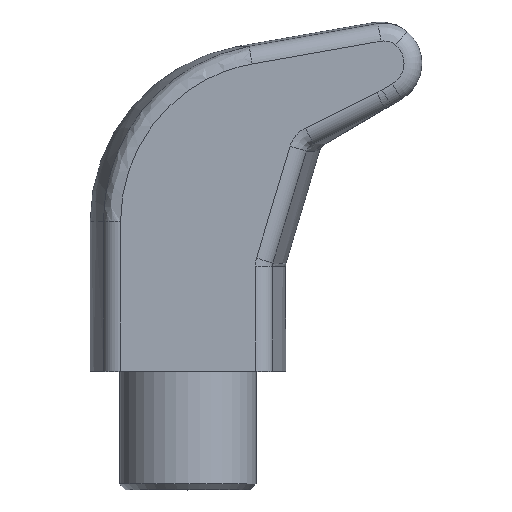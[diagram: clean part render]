
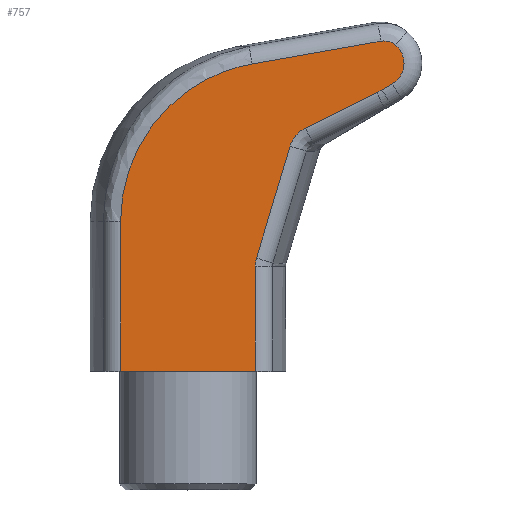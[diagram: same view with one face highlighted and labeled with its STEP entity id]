
A CAD part, top view. The second image highlights one B-rep face of the part: STEP entity #757.
In plain terms, the highlighted planar face has unit normal (0, 0, 1).
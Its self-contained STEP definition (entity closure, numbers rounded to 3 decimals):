
#52=B_SPLINE_CURVE_WITH_KNOTS('',3,(#1489,#1490,#1491,#1492),
 .UNSPECIFIED.,.F.,.F.,(4,4),(0.,0.131),.UNSPECIFIED.);
#53=B_SPLINE_CURVE_WITH_KNOTS('',3,(#1529,#1530,#1531,#1532,#1533,#1534),
 .UNSPECIFIED.,.F.,.F.,(4,1,1,4),(-1.882,-1.075,-0.538,
0.),.UNSPECIFIED.);
#55=B_SPLINE_CURVE_WITH_KNOTS('',3,(#1573,#1574,#1575,#1576),
 .UNSPECIFIED.,.F.,.F.,(4,4),(0.,0.07),.UNSPECIFIED.);
#57=B_SPLINE_CURVE_WITH_KNOTS('',3,(#1608,#1609,#1610,#1611),
 .UNSPECIFIED.,.F.,.F.,(4,4),(0.,0.207),.UNSPECIFIED.);
#59=B_SPLINE_CURVE_WITH_KNOTS('',3,(#1642,#1643,#1644,#1645),
 .UNSPECIFIED.,.F.,.F.,(4,4),(0.,0.052),.UNSPECIFIED.);
#100=LINE('',#1448,#127);
#103=LINE('',#1496,#130);
#104=LINE('',#1542,#131);
#105=LINE('',#1546,#132);
#106=LINE('',#1550,#133);
#107=LINE('',#1580,#134);
#108=LINE('',#1616,#135);
#127=VECTOR('',#927,11.371);
#130=VECTOR('',#952,11.05);
#131=VECTOR('',#957,12.647);
#132=VECTOR('',#962,1.001);
#133=VECTOR('',#967,8.86);
#134=VECTOR('',#974,9.869);
#135=VECTOR('',#981,6.717);
#157=PLANE('',#827);
#210=FACE_OUTER_BOUND('',#263,.T.);
#263=EDGE_LOOP('',(#694,#695,#696,#697,#698,#699,#700,#701,#702,#703,#704,
#705,#706));
#295=CIRCLE('',#807,2.);
#356=VERTEX_POINT('',#1445);
#357=VERTEX_POINT('',#1447);
#360=VERTEX_POINT('',#1458);
#361=VERTEX_POINT('',#1460);
#362=VERTEX_POINT('',#1487);
#363=VERTEX_POINT('',#1494);
#364=VERTEX_POINT('',#1527);
#365=VERTEX_POINT('',#1544);
#366=VERTEX_POINT('',#1548);
#367=VERTEX_POINT('',#1571);
#368=VERTEX_POINT('',#1578);
#370=VERTEX_POINT('',#1606);
#372=VERTEX_POINT('',#1614);
#445=EDGE_CURVE('',#357,#356,#100,.T.);
#453=EDGE_CURVE('',#361,#360,#295,.T.);
#456=EDGE_CURVE('',#362,#361,#52,.T.);
#458=EDGE_CURVE('',#363,#362,#103,.T.);
#460=EDGE_CURVE('',#364,#363,#53,.T.);
#462=EDGE_CURVE('',#357,#364,#104,.T.);
#464=EDGE_CURVE('',#360,#365,#105,.T.);
#466=EDGE_CURVE('',#366,#356,#106,.T.);
#468=EDGE_CURVE('',#367,#366,#55,.T.);
#470=EDGE_CURVE('',#368,#367,#107,.T.);
#473=EDGE_CURVE('',#370,#368,#57,.T.);
#475=EDGE_CURVE('',#372,#370,#108,.T.);
#478=EDGE_CURVE('',#365,#372,#59,.T.);
#694=ORIENTED_EDGE('',*,*,#462,.F.);
#695=ORIENTED_EDGE('',*,*,#445,.T.);
#696=ORIENTED_EDGE('',*,*,#466,.F.);
#697=ORIENTED_EDGE('',*,*,#468,.F.);
#698=ORIENTED_EDGE('',*,*,#470,.F.);
#699=ORIENTED_EDGE('',*,*,#473,.F.);
#700=ORIENTED_EDGE('',*,*,#475,.F.);
#701=ORIENTED_EDGE('',*,*,#478,.F.);
#702=ORIENTED_EDGE('',*,*,#464,.F.);
#703=ORIENTED_EDGE('',*,*,#453,.F.);
#704=ORIENTED_EDGE('',*,*,#456,.F.);
#705=ORIENTED_EDGE('',*,*,#458,.F.);
#706=ORIENTED_EDGE('',*,*,#460,.F.);
#757=ADVANCED_FACE('',(#210),#157,.T.);
#807=AXIS2_PLACEMENT_3D('',#1462,#944,#945);
#827=AXIS2_PLACEMENT_3D('',#1792,#991,#992);
#927=DIRECTION('',(1.,0.,0.));
#944=DIRECTION('center_axis',(0.,0.,-1.));
#945=DIRECTION('ref_axis',(0.979,0.203,0.));
#952=DIRECTION('',(0.985,0.174,0.));
#957=DIRECTION('',(0.,1.,0.));
#962=DIRECTION('',(-0.862,-0.507,0.));
#967=DIRECTION('',(0.,-1.,0.));
#974=DIRECTION('',(-0.287,-0.958,0.));
#981=DIRECTION('',(-0.895,-0.445,0.));
#991=DIRECTION('center_axis',(0.,0.,1.));
#992=DIRECTION('ref_axis',(1.,0.,0.));
#1445=CARTESIAN_POINT('',(5.686,0.,8.25));
#1447=CARTESIAN_POINT('',(-5.686,0.,8.25));
#1448=CARTESIAN_POINT('',(-8.25,0.,8.25));
#1458=CARTESIAN_POINT('',(17.264,24.276,8.25));
#1460=CARTESIAN_POINT('',(17.528,27.539,8.25));
#1462=CARTESIAN_POINT('Origin',(16.25,26.,8.25));
#1487=CARTESIAN_POINT('',(16.305,27.863,8.25));
#1489=CARTESIAN_POINT('Ctrl Pts',(16.305,27.863,8.25));
#1490=CARTESIAN_POINT('Ctrl Pts',(16.734,27.939,8.25));
#1491=CARTESIAN_POINT('Ctrl Pts',(17.193,27.817,8.25));
#1492=CARTESIAN_POINT('Ctrl Pts',(17.528,27.539,8.25));
#1494=CARTESIAN_POINT('',(5.422,25.944,8.25));
#1496=CARTESIAN_POINT('',(27.167,29.779,8.25));
#1527=CARTESIAN_POINT('',(-5.686,12.647,8.25));
#1529=CARTESIAN_POINT('Ctrl Pts',(-5.686,12.647,8.25));
#1530=CARTESIAN_POINT('Ctrl Pts',(-5.686,15.336,8.25));
#1531=CARTESIAN_POINT('Ctrl Pts',(-4.314,19.808,8.25));
#1532=CARTESIAN_POINT('Ctrl Pts',(0.258,24.291,8.25));
#1533=CARTESIAN_POINT('Ctrl Pts',(3.658,25.633,8.25));
#1534=CARTESIAN_POINT('Ctrl Pts',(5.422,25.944,8.25));
#1542=CARTESIAN_POINT('',(-5.686,0.,8.25));
#1544=CARTESIAN_POINT('',(16.401,23.769,8.25));
#1546=CARTESIAN_POINT('',(6.811,18.13,8.25));
#1548=CARTESIAN_POINT('',(5.686,8.86,8.25));
#1550=CARTESIAN_POINT('',(5.686,0.,8.25));
#1571=CARTESIAN_POINT('',(5.787,9.546,8.25));
#1573=CARTESIAN_POINT('Ctrl Pts',(5.787,9.546,8.25));
#1574=CARTESIAN_POINT('Ctrl Pts',(5.72,9.324,8.25));
#1575=CARTESIAN_POINT('Ctrl Pts',(5.686,9.092,8.25));
#1576=CARTESIAN_POINT('Ctrl Pts',(5.686,8.86,8.25));
#1578=CARTESIAN_POINT('',(8.623,18.999,8.25));
#1580=CARTESIAN_POINT('',(3.904,3.272,8.25));
#1606=CARTESIAN_POINT('',(9.93,20.528,8.25));
#1608=CARTESIAN_POINT('Ctrl Pts',(9.93,20.528,8.25));
#1609=CARTESIAN_POINT('Ctrl Pts',(9.313,20.221,8.25));
#1610=CARTESIAN_POINT('Ctrl Pts',(8.821,19.66,8.25));
#1611=CARTESIAN_POINT('Ctrl Pts',(8.623,18.999,8.25));
#1614=CARTESIAN_POINT('',(15.944,23.521,8.25));
#1616=CARTESIAN_POINT('',(-8.408,11.404,8.25));
#1642=CARTESIAN_POINT('Ctrl Pts',(16.401,23.769,8.25));
#1643=CARTESIAN_POINT('Ctrl Pts',(16.252,23.681,8.25));
#1644=CARTESIAN_POINT('Ctrl Pts',(16.099,23.598,8.25));
#1645=CARTESIAN_POINT('Ctrl Pts',(15.944,23.521,8.25));
#1792=CARTESIAN_POINT('Origin',(4.146,14.242,8.25));
